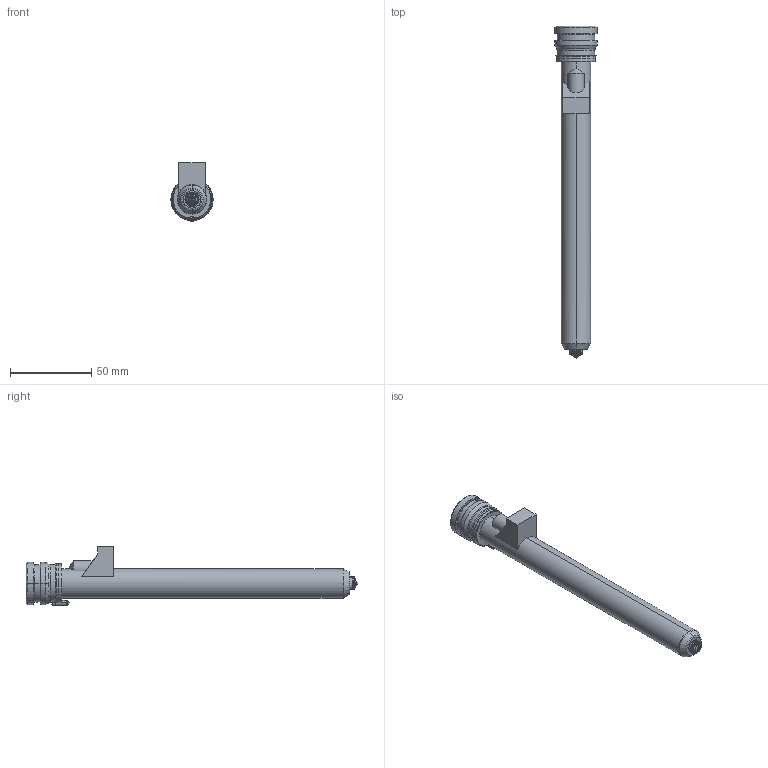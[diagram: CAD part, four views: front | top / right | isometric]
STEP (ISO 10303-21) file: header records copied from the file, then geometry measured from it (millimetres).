
FILE_DESCRIPTION((''),'2;1');
FILE_NAME('TH18186-M-1GLT-PK-JG','2023-12-14T',('umhib'),('Thermoplay S.p.A.'),'PRO/ENGINEER BY PARAMETRIC TECHNOLOGY CORPORATION, 2017170','PRO/ENGINEER BY PARAMETRIC TECHNOLOGY CORPORATION, 2017170','');
FILE_SCHEMA(('CONFIG_CONTROL_DESIGN'));
Length unit declared in the file: millimetre
Products named in the file (1): TH18186-M-1GLT-PK-JG
Bounding box: 26 x 204 x 36.1 mm (x, y, z)
Volume: 40508.4 mm3; surface area: 30642.1 mm2
Topology: 1 solids, 2 shells, 413 faces, 1052 edges, 647 vertices
Faces by surface type: cylinder 160, plane 92, cone 64, torus 64, bspline 22, sphere 9, extrusion 2
Entity records: 16927 total; most frequent: CARTESIAN_POINT 4929, DIRECTION 2166, ORIENTED_EDGE 2078, EDGE_CURVE 1041, AXIS2_PLACEMENT_3D 881, VERTEX_POINT 647, CIRCLE 491, EDGE_LOOP 441
